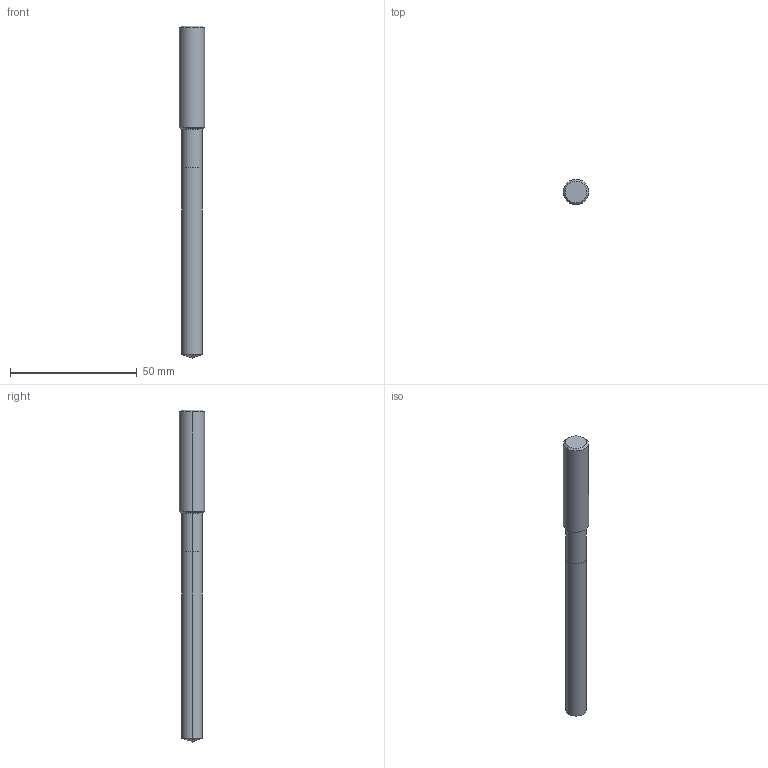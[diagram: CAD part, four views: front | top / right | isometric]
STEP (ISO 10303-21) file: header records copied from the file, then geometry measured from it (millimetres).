
FILE_DESCRIPTION(('STEP AP214'),'1');
FILE_NAME('cctmp_90081201-4C5C-4757-ADD6-BE3EF24FE0B0_2020_11_02_13_40_52_0521..stp','2020-11-02T12:40:52',('Meusburger Georg GmbH & Co KG'),('CADClick - www.CADClick.com'),'Spatial InterOp 3D',' ','unknown authorization');
FILE_SCHEMA(('AUTOMOTIVE_DESIGN { 1 0 10303 214 1 1 1 1 }'));
Length unit declared in the file: millimetre
Products named in the file (1): WZB10223_8.1
Bounding box: 10 x 10 x 131 mm (x, y, z)
Volume: 7776.6 mm3; surface area: 3669.1 mm2
Topology: 1 solids, 1 shells, 14 faces, 28 edges, 15 vertices
Faces by surface type: cylinder 6, cone 6, plane 2
Entity records: 484 total; most frequent: DIRECTION 70, CARTESIAN_POINT 56, ORIENTED_EDGE 52, AXIS2_PLACEMENT_3D 29, EDGE_CURVE 26, STYLED_ITEM 15, PRESENTATION_STYLE_ASSIGNMENT 15, SURFACE_STYLE_USAGE 15
